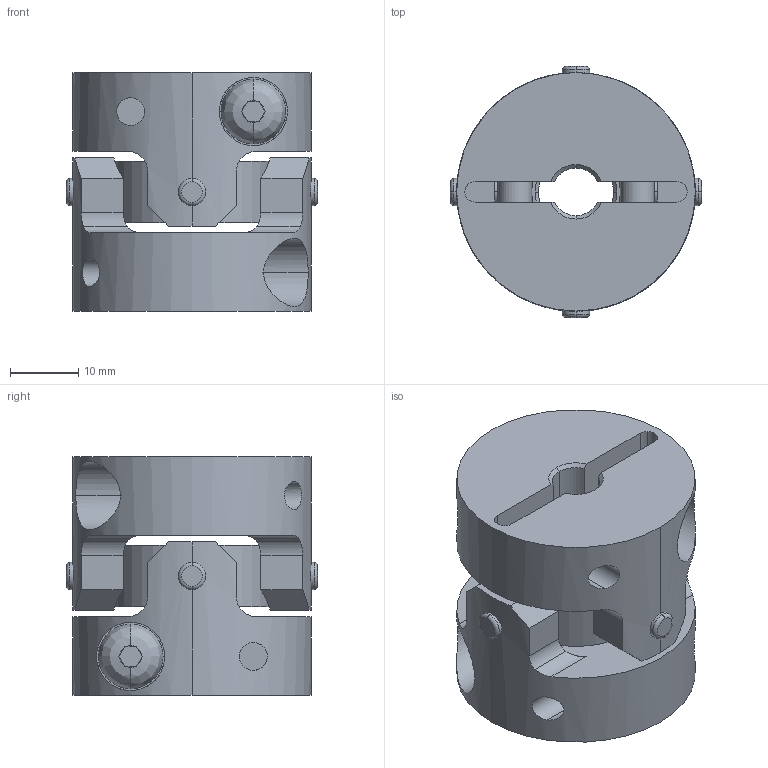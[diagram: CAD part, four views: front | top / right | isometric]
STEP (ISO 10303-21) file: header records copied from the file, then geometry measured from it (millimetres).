
FILE_DESCRIPTION((''),'2;1');
FILE_NAME('UA-35C-7×11.stp','2013-11-12T15:44:58',(''),(''),'AutoCAD STEP 2000i','AutoCAD 2000i',', , ');
FILE_SCHEMA(('CONFIG_CONTROL_DESIGN'));
Length unit declared in the file: millimetre
Products named in the file (6): UA-35C-8×8; 忣兜1; UA-3502-D08-1; BTN-M5; UA-3502-D08; UA35-SEN
Assembly tree (6 placements, depth 3):
  UA-35C-8×8
    忣兜1
    UA-3502-D08-1
      BTN-M5
    UA-3502-D08
      BTN-M5
    UA35-SEN
Bounding box: 36.83 x 36.83 x 35 mm (x, y, z)
Volume: 23042.7 mm3; surface area: 12017.1 mm2
Topology: 1 solids, 1 shells, 250 faces, 646 edges, 408 vertices
Faces by surface type: plane 122, cylinder 96, cone 16, bspline 8, torus 8
Entity records: 9647 total; most frequent: CARTESIAN_POINT 3391, ORIENTED_EDGE 1292, DIRECTION 1288, EDGE_CURVE 646, AXIS2_PLACEMENT_3D 497, VERTEX_POINT 408, VECTOR 294, LINE 294
